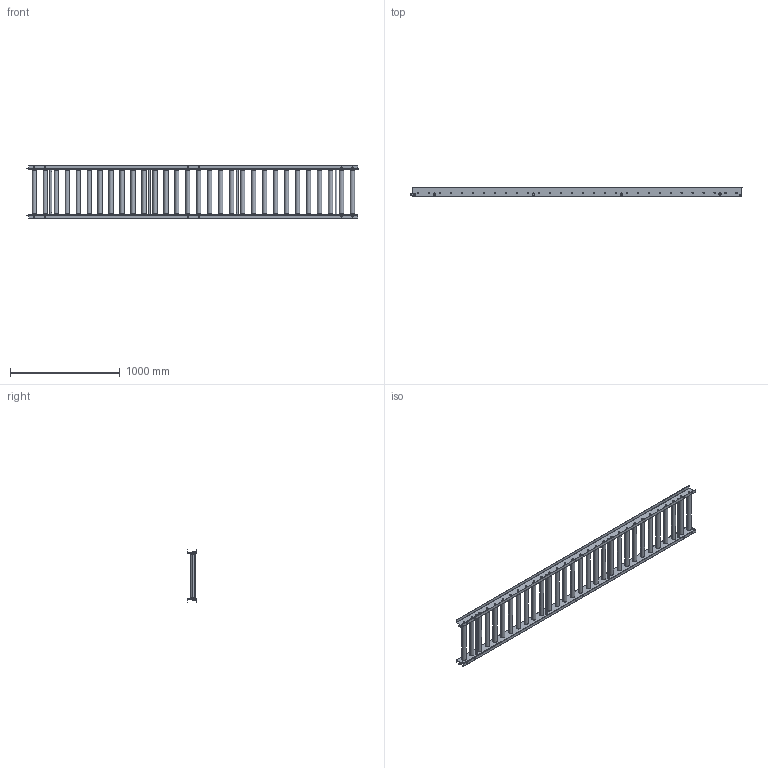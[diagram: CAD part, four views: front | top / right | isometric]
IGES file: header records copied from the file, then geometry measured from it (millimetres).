
Start section: SolidWorks IGES file using analytic representation for surfaces
Global section: file name: C:\Users\0656\Desktop\変換ツール\iges変換\R-3812PG.igs; native system: SolidWorks 2023; preprocessor: SolidWorks 2023; author: 0656; date: 240220.165941; units: millimetre
Bounding box: 3025 x 90 x 475 mm (x, y, z)
Surface area: 4801419.9 mm2 (no closed solid volume)
Topology: 0 solids, 0 shells, 1280 faces, 26148 edges, 26148 vertices
Faces by surface type: revolution 670, bspline 610
